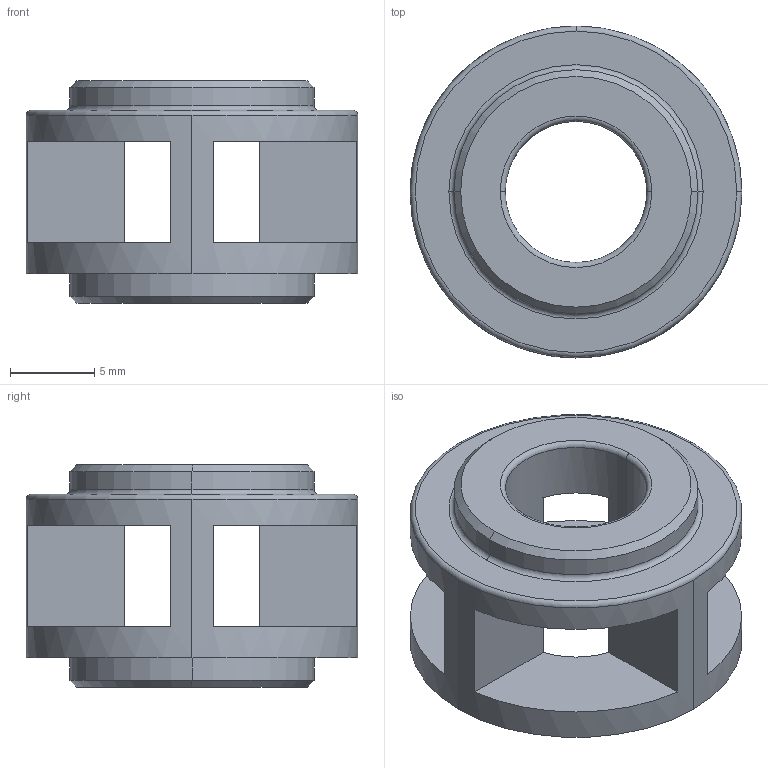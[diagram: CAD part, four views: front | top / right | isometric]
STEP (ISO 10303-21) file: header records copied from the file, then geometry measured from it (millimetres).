
FILE_DESCRIPTION(('CATIA V5 STEP Exchange'),'2;1');
FILE_NAME('C:\Users\Administrator\Desktop\H6（3.0平台）\VDC阀\2.过程数据\膜片式\气源密封支撑圈.stp','2021-02-25T02:03:48+00:00',('none'),('none'),'CATIA Version 5 Release 20 GA (IN-10)','CATIA V5 STEP AP214','none');
FILE_SCHEMA(('AUTOMOTIVE_DESIGN { 1 0 10303 214 1 1 1 1 }'));
Length unit declared in the file: millimetre
Products named in the file (1): BPC0010080
Bounding box: 19.7 x 19.7 x 13.2 mm (x, y, z)
Volume: 1639.4 mm3; surface area: 1817.5 mm2
Topology: 1 solids, 1 shells, 44 faces, 109 edges, 69 vertices
Faces by surface type: plane 20, cylinder 12, torus 8, cone 4
Entity records: 1237 total; most frequent: ORIENTED_EDGE 218, CARTESIAN_POINT 209, DIRECTION 169, EDGE_CURVE 109, AXIS2_PLACEMENT_3D 91, VERTEX_POINT 69, CIRCLE 60, EDGE_LOOP 56
